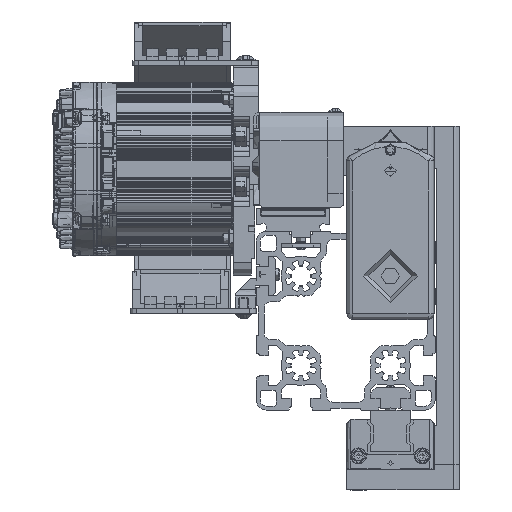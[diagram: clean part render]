
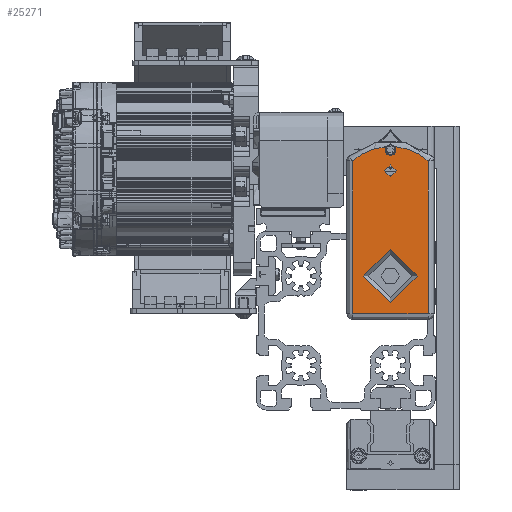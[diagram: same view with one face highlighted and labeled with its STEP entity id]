
A CAD part, front view. The second image highlights one B-rep face of the part: STEP entity #25271.
In plain terms, the highlighted planar face has unit normal (0, -1, 0).
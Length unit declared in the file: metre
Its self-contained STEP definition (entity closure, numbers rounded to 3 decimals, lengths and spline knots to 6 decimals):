
#25271 = ADVANCED_FACE( '', ( #50355, #50356, #50357 ), #50358, .T. );
#50355 = FACE_OUTER_BOUND( '', #141539, .T. );
#50356 = FACE_BOUND( '', #141540, .T. );
#50357 = FACE_BOUND( '', #141541, .T. );
#50358 = PLANE( '', #141542 );
#141539 = EDGE_LOOP( '', ( #205985, #205986, #205987, #205988, #205989, #205990 ) );
#141540 = EDGE_LOOP( '', ( #205991 ) );
#141541 = EDGE_LOOP( '', ( #205992 ) );
#141542 = AXIS2_PLACEMENT_3D( '', #205993, #205994, #205995 );
#205985 = ORIENTED_EDGE( '', *, *, #233099, .T. );
#205986 = ORIENTED_EDGE( '', *, *, #233343, .T. );
#205987 = ORIENTED_EDGE( '', *, *, #233100, .T. );
#205988 = ORIENTED_EDGE( '', *, *, #221484, .T. );
#205989 = ORIENTED_EDGE( '', *, *, #227898, .T. );
#205990 = ORIENTED_EDGE( '', *, *, #227880, .T. );
#205991 = ORIENTED_EDGE( '', *, *, #219626, .T. );
#205992 = ORIENTED_EDGE( '', *, *, #222750, .F. );
#205993 = CARTESIAN_POINT( '', ( -0.04064, -0.004762, -0.022 ) );
#205994 = DIRECTION( '', ( 0., -1., 0. ) );
#205995 = DIRECTION( '', ( 0., 0., -1. ) );
#219626 = EDGE_CURVE( '', #252659, #252659, #252660, .T. );
#221484 = EDGE_CURVE( '', #255492, #250403, #255493, .T. );
#222750 = EDGE_CURVE( '', #257349, #257349, #257350, .T. );
#227880 = EDGE_CURVE( '', #243012, #264339, #264341, .T. );
#227898 = EDGE_CURVE( '', #250403, #243012, #264362, .T. );
#233099 = EDGE_CURVE( '', #264339, #270557, #270560, .T. );
#233100 = EDGE_CURVE( '', #270558, #255492, #270561, .T. );
#233343 = EDGE_CURVE( '', #270557, #270558, #270821, .T. );
#243012 = VERTEX_POINT( '', #289026 );
#250403 = VERTEX_POINT( '', #308888 );
#252659 = VERTEX_POINT( '', #314352 );
#252660 = CIRCLE( '', #314353, 0.003 );
#255492 = VERTEX_POINT( '', #321895 );
#255493 = LINE( '', #321896, #321897 );
#257349 = VERTEX_POINT( '', #326881 );
#257350 = CIRCLE( '', #326882, 0.01344 );
#264339 = VERTEX_POINT( '', #346466 );
#264341 = LINE( '', #346468, #346469 );
#264362 = LINE( '', #346504, #346505 );
#270557 = VERTEX_POINT( '', #362412 );
#270558 = VERTEX_POINT( '', #362413 );
#270560 = CIRCLE( '', #362436, 0.02875 );
#270561 = CIRCLE( '', #362437, 0.02875 );
#270821 = CIRCLE( '', #362999, 0.003 );
#289026 = CARTESIAN_POINT( '', ( 0.03764, -0.004763, 0.019 ) );
#308888 = CARTESIAN_POINT( '', ( 0.03764, -0.004763, -0.019 ) );
#314352 = CARTESIAN_POINT( '', ( -0.03729, -0.004762, 0. ) );
#314353 = AXIS2_PLACEMENT_3D( '', #380075, #380076, #380077 );
#321895 = CARTESIAN_POINT( '', ( -0.039324, -0.004763, -0.019 ) );
#321896 = CARTESIAN_POINT( '', ( 0.03764, -0.004763, -0.019 ) );
#321897 = VECTOR( '', #382500, 1. );
#326881 = CARTESIAN_POINT( '', ( 0.03208, -0.004763, 0. ) );
#326882 = AXIS2_PLACEMENT_3D( '', #384031, #384032, #384033 );
#346466 = CARTESIAN_POINT( '', ( -0.039324, -0.004763, 0.019 ) );
#346468 = CARTESIAN_POINT( '', ( -0.039324, -0.004763, 0.019 ) );
#346469 = VECTOR( '', #389712, 1. );
#346504 = CARTESIAN_POINT( '', ( 0.03764, -0.004763, 0.019 ) );
#346505 = VECTOR( '', #389725, 1. );
#362412 = CARTESIAN_POINT( '', ( -0.046381, -0.004763, 0.002586 ) );
#362413 = CARTESIAN_POINT( '', ( -0.046381, -0.004763, -0.002586 ) );
#362436 = AXIS2_PLACEMENT_3D( '', #394659, #394660, #394661 );
#362437 = AXIS2_PLACEMENT_3D( '', #394662, #394663, #394664 );
#362999 = AXIS2_PLACEMENT_3D( '', #394812, #394813, #394814 );
#380075 = CARTESIAN_POINT( '', ( -0.03429, -0.004762, 0. ) );
#380076 = DIRECTION( '', ( 0., 1., 0. ) );
#380077 = DIRECTION( '', ( -1., 0., 0. ) );
#382500 = DIRECTION( '', ( 1., 0., 0. ) );
#384031 = CARTESIAN_POINT( '', ( 0.01864, -0.004763, 0. ) );
#384032 = DIRECTION( '', ( 0., -1., 0. ) );
#384033 = DIRECTION( '', ( 1., 0., 0. ) );
#389712 = DIRECTION( '', ( -1., 0., 0. ) );
#389725 = DIRECTION( '', ( 0., 0., 1. ) );
#394659 = CARTESIAN_POINT( '', ( -0.017748, -0.004762, 0. ) );
#394660 = DIRECTION( '', ( 0., -1., 0. ) );
#394661 = DIRECTION( '', ( 1., 0., 0. ) );
#394662 = CARTESIAN_POINT( '', ( -0.017748, -0.004762, 0. ) );
#394663 = DIRECTION( '', ( 0., -1., 0. ) );
#394664 = DIRECTION( '', ( 1., 0., 0. ) );
#394812 = CARTESIAN_POINT( '', ( -0.04486, -0.004763, 0. ) );
#394813 = DIRECTION( '', ( 0., 1., 0. ) );
#394814 = DIRECTION( '', ( -1., 0., 0. ) );
